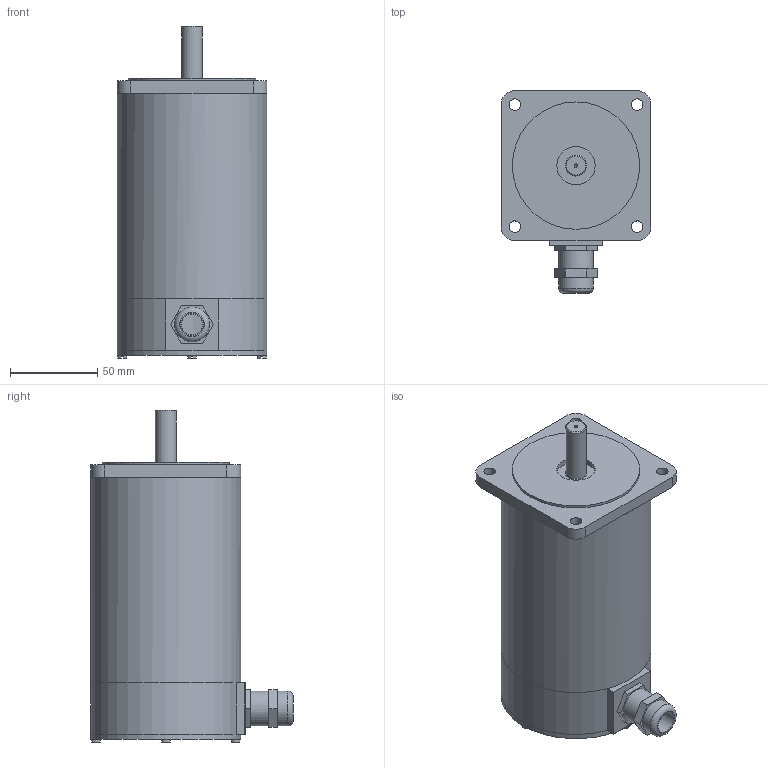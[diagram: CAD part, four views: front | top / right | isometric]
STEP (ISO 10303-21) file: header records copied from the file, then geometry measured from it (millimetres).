
FILE_DESCRIPTION((''),'2;1');
FILE_NAME('C:\Users\Reinhard\Documents\Inventor\Testschrittmotor\SM88\SM88.3-KV.stp','2012-11-12T20:37:01',('Reinhard'),(''),'Autodesk Inventor 2012','Autodesk Inventor 2012','');
FILE_SCHEMA(('CONFIG_CONTROL_DESIGN'));
Length unit declared in the file: millimetre
Products named in the file (1): SM88
Bounding box: 86 x 115.99 x 190.4 mm (x, y, z)
Volume: 176371.5 mm3; surface area: 112498.8 mm2
Topology: 2 solids, 2 shells, 105 faces, 233 edges, 148 vertices
Faces by surface type: plane 64, cylinder 35, cone 3, sphere 2, torus 1
Full cylindrical faces by diameter (mm): 2 x1, 5 x4, 6.6 x4, 12 x2, 13 x2, 15 x1, 18.376 x1, 20 x3, 22 x1, 73 x1, 78 x2, 82 x1, 86 x2
Entity records: 2775 total; most frequent: CARTESIAN_POINT 496, DIRECTION 491, ORIENTED_EDGE 390, EDGE_CURVE 195, AXIS2_PLACEMENT_3D 194, EDGE_LOOP 162, VERTEX_POINT 139, FACE_OUTER_BOUND 105
